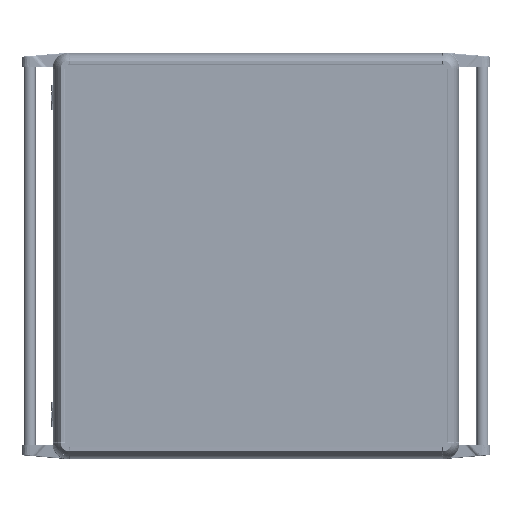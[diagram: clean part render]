
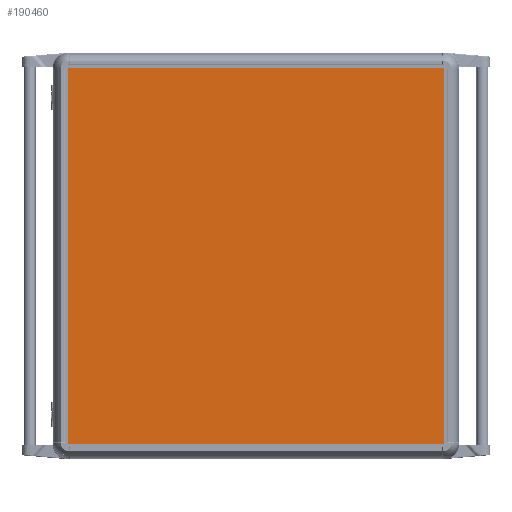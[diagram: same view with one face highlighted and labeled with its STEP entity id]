
A CAD part, top view. The second image highlights one B-rep face of the part: STEP entity #190460.
In plain terms, the highlighted planar face has unit normal (0, 0, 1).
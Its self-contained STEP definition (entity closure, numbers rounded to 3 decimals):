
#24061 = EDGE_CURVE ( 'NONE', #61312, #179443, #135177, .T. ) ;
#29553 = EDGE_LOOP ( 'NONE', ( #78905, #225163, #254270, #110965 ) ) ;
#31495 = VECTOR ( 'NONE', #99017, 1000. ) ;
#33770 = CARTESIAN_POINT ( 'NONE',  ( -300., -300., 2. ) ) ;
#61312 = VERTEX_POINT ( 'NONE', #326349 ) ;
#62149 = DIRECTION ( 'NONE',  ( 0., 1., 0. ) ) ;
#68835 = FACE_OUTER_BOUND ( 'NONE', #29553, .T. ) ;
#75056 = DIRECTION ( 'NONE',  ( 0., -1., 0. ) ) ;
#77135 = EDGE_CURVE ( 'NONE', #179443, #142029, #292232, .T. ) ;
#78905 = ORIENTED_EDGE ( 'NONE', *, *, #77135, .T. ) ;
#81516 = AXIS2_PLACEMENT_3D ( 'NONE', #221126, #324266, #102559 ) ;
#91285 = CARTESIAN_POINT ( 'NONE',  ( 300., -300., 2. ) ) ;
#98701 = EDGE_CURVE ( 'NONE', #142029, #303876, #227557, .T. ) ;
#99017 = DIRECTION ( 'NONE',  ( -1., 0., 0. ) ) ;
#102559 = DIRECTION ( 'NONE',  ( 1., 0., 0. ) ) ;
#110965 = ORIENTED_EDGE ( 'NONE', *, *, #24061, .T. ) ;
#117948 = PLANE ( 'NONE',  #81516 ) ;
#120368 = VECTOR ( 'NONE', #75056, 1000. ) ;
#135177 = LINE ( 'NONE', #33770, #155240 ) ;
#140177 = DIRECTION ( 'NONE',  ( 1., 0., 0. ) ) ;
#142029 = VERTEX_POINT ( 'NONE', #177863 ) ;
#152614 = VECTOR ( 'NONE', #62149, 1000. ) ;
#155240 = VECTOR ( 'NONE', #140177, 1000. ) ;
#157729 = CARTESIAN_POINT ( 'NONE',  ( -300., 300., 2. ) ) ;
#177863 = CARTESIAN_POINT ( 'NONE',  ( 300., 300., 2. ) ) ;
#179443 = VERTEX_POINT ( 'NONE', #91285 ) ;
#190460 = ADVANCED_FACE ( 'NONE', ( #68835 ), #117948, .T. ) ;
#221126 = CARTESIAN_POINT ( 'NONE',  ( 0., 0., 2. ) ) ;
#225163 = ORIENTED_EDGE ( 'NONE', *, *, #98701, .T. ) ;
#227557 = LINE ( 'NONE', #330614, #31495 ) ;
#228916 = LINE ( 'NONE', #259304, #120368 ) ;
#248086 = CARTESIAN_POINT ( 'NONE',  ( 300., 300., 2. ) ) ;
#254270 = ORIENTED_EDGE ( 'NONE', *, *, #302838, .T. ) ;
#259304 = CARTESIAN_POINT ( 'NONE',  ( -300., 300., 2. ) ) ;
#292232 = LINE ( 'NONE', #248086, #152614 ) ;
#302838 = EDGE_CURVE ( 'NONE', #303876, #61312, #228916, .T. ) ;
#303876 = VERTEX_POINT ( 'NONE', #157729 ) ;
#324266 = DIRECTION ( 'NONE',  ( 0., 0., 1. ) ) ;
#326349 = CARTESIAN_POINT ( 'NONE',  ( -300., -300., 2. ) ) ;
#330614 = CARTESIAN_POINT ( 'NONE',  ( -300., 300., 2. ) ) ;
